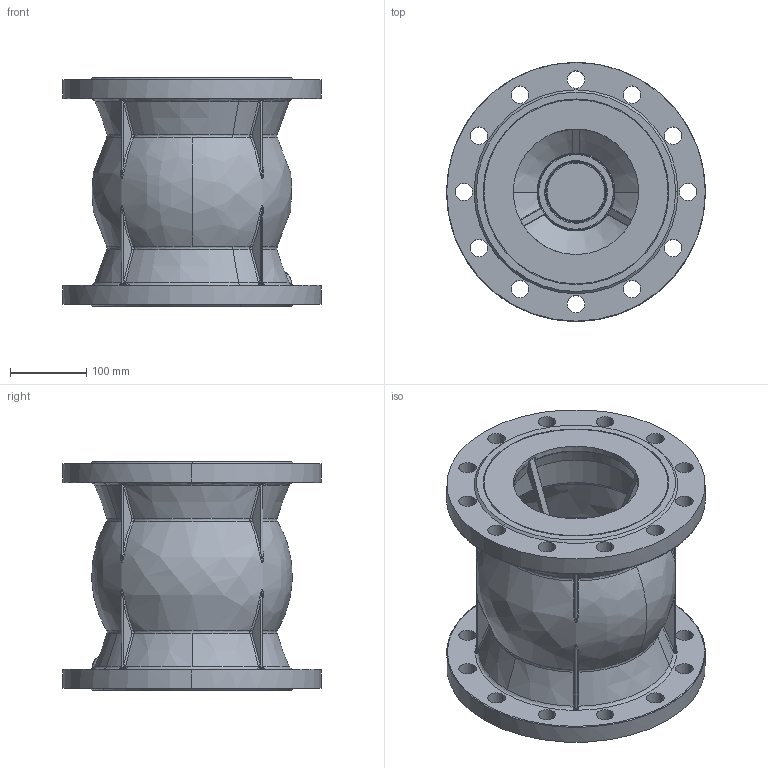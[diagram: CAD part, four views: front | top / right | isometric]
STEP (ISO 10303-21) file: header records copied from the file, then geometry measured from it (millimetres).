
FILE_DESCRIPTION (( 'STEP AP203' ), '1' );
FILE_NAME ('0.STEP', '2017-04-05T13:26:06', ( 'User' ), ( 'shendu' ), 'SwSTEP 2.0', 'SolidWorks 2015', '' );
FILE_SCHEMA (( 'CONFIG_CONTROL_DESIGN' ));
Products named in the file (1): 0
Bounding box: 340 x 340 x 301 mm (x, y, z)
Volume: 6808636.1 mm3; surface area: 1179538 mm2
Topology: 6 solids, 6 shells, 624 faces, 1488 edges, 863 vertices
Faces by surface type: bspline 372, cylinder 150, plane 56, cone 46
Entity records: 197657 total; most frequent: CARTESIAN_POINT 185932, ORIENTED_EDGE 2934, DIRECTION 1520, EDGE_CURVE 1467, VERTEX_POINT 863, B_SPLINE_CURVE_WITH_KNOTS 784, EDGE_LOOP 694, AXIS2_PLACEMENT_3D 638
